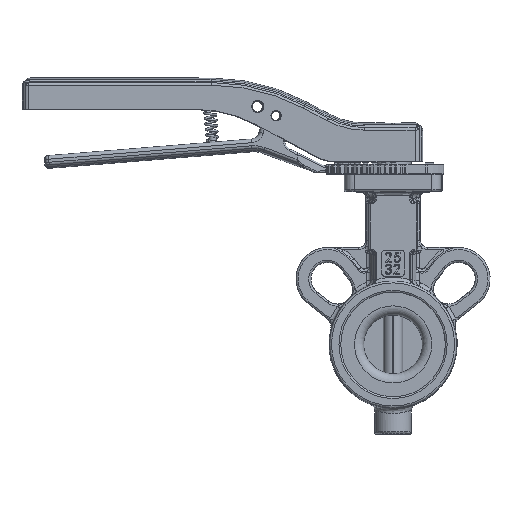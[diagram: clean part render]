
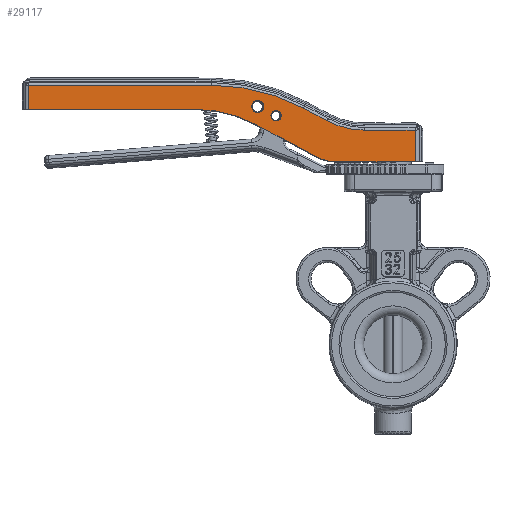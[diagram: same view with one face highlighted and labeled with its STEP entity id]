
A CAD part, top view. The second image highlights one B-rep face of the part: STEP entity #29117.
In plain terms, the highlighted planar face has unit normal (0.024, 0, 1) as drawn and (0, 0, 1) by its records, which use the part's own axes.
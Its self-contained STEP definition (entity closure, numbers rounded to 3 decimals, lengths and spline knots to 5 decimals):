
#1119=FACE_BOUND('',#4175,.T.);
#1120=FACE_BOUND('',#4176,.T.);
#1393=PLANE('',#31464);
#2337=FACE_OUTER_BOUND('',#4174,.T.);
#4174=EDGE_LOOP('',(#21689,#21690,#21691,#21692,#21693,#21694,#21695,#21696,
#21697,#21698,#21699,#21700));
#4175=EDGE_LOOP('',(#21701));
#4176=EDGE_LOOP('',(#21702));
#6951=LINE('',#60501,#8979);
#6970=LINE('',#60550,#8998);
#6974=LINE('',#60564,#9002);
#6975=LINE('',#60570,#9003);
#6976=LINE('',#60571,#9004);
#6977=LINE('',#60574,#9005);
#6978=LINE('',#60576,#9006);
#6979=LINE('',#60579,#9007);
#8979=VECTOR('',#35871,0.04377);
#8998=VECTOR('',#35908,0.09117);
#9002=VECTOR('',#35924,0.03821);
#9003=VECTOR('',#35929,0.09975);
#9004=VECTOR('',#35930,0.01317);
#9005=VECTOR('',#35933,0.01717);
#9006=VECTOR('',#35934,0.02776);
#9007=VECTOR('',#35937,0.01473);
#10744=CIRCLE('',#31462,0.07);
#10745=CIRCLE('',#31465,0.10717);
#10746=CIRCLE('',#31466,0.02);
#10747=CIRCLE('',#31467,0.04283);
#10748=CIRCLE('',#31468,0.0028);
#10749=CIRCLE('',#31469,0.0033);
#12629=VERTEX_POINT('',#60498);
#12630=VERTEX_POINT('',#60500);
#12650=VERTEX_POINT('',#60547);
#12651=VERTEX_POINT('',#60549);
#12654=VERTEX_POINT('',#60558);
#12655=VERTEX_POINT('',#60562);
#12656=VERTEX_POINT('',#60566);
#12657=VERTEX_POINT('',#60567);
#12658=VERTEX_POINT('',#60569);
#12659=VERTEX_POINT('',#60573);
#12660=VERTEX_POINT('',#60575);
#12661=VERTEX_POINT('',#60577);
#12662=VERTEX_POINT('',#60580);
#12663=VERTEX_POINT('',#60582);
#15860=EDGE_CURVE('',#12630,#12629,#6951,.T.);
#15885=EDGE_CURVE('',#12651,#12650,#6970,.T.);
#15891=EDGE_CURVE('',#12650,#12654,#10744,.T.);
#15893=EDGE_CURVE('',#12654,#12655,#6974,.T.);
#15894=EDGE_CURVE('',#12656,#12657,#10745,.F.);
#15895=EDGE_CURVE('',#12657,#12658,#6975,.F.);
#15896=EDGE_CURVE('',#12658,#12651,#6976,.F.);
#15897=EDGE_CURVE('',#12655,#12630,#10746,.F.);
#15898=EDGE_CURVE('',#12629,#12659,#6977,.F.);
#15899=EDGE_CURVE('',#12659,#12660,#6978,.F.);
#15900=EDGE_CURVE('',#12660,#12661,#10747,.T.);
#15901=EDGE_CURVE('',#12661,#12656,#6979,.F.);
#15902=EDGE_CURVE('',#12662,#12662,#10748,.T.);
#15903=EDGE_CURVE('',#12663,#12663,#10749,.T.);
#21689=ORIENTED_EDGE('',*,*,#15894,.T.);
#21690=ORIENTED_EDGE('',*,*,#15895,.T.);
#21691=ORIENTED_EDGE('',*,*,#15896,.T.);
#21692=ORIENTED_EDGE('',*,*,#15885,.T.);
#21693=ORIENTED_EDGE('',*,*,#15891,.T.);
#21694=ORIENTED_EDGE('',*,*,#15893,.T.);
#21695=ORIENTED_EDGE('',*,*,#15897,.T.);
#21696=ORIENTED_EDGE('',*,*,#15860,.T.);
#21697=ORIENTED_EDGE('',*,*,#15898,.T.);
#21698=ORIENTED_EDGE('',*,*,#15899,.T.);
#21699=ORIENTED_EDGE('',*,*,#15900,.T.);
#21700=ORIENTED_EDGE('',*,*,#15901,.T.);
#21701=ORIENTED_EDGE('',*,*,#15902,.T.);
#21702=ORIENTED_EDGE('',*,*,#15903,.T.);
#29117=ADVANCED_FACE('',(#2337,#1119,#1120),#1393,.F.);
#31462=AXIS2_PLACEMENT_3D('',#60560,#35919,#35920);
#31464=AXIS2_PLACEMENT_3D('',#60565,#35925,#35926);
#31465=AXIS2_PLACEMENT_3D('',#60568,#35927,#35928);
#31466=AXIS2_PLACEMENT_3D('',#60572,#35931,#35932);
#31467=AXIS2_PLACEMENT_3D('',#60578,#35935,#35936);
#31468=AXIS2_PLACEMENT_3D('',#60581,#35938,#35939);
#31469=AXIS2_PLACEMENT_3D('',#60583,#35940,#35941);
#35871=DIRECTION('',(1.,0.,0.));
#35908=DIRECTION('',(1.,0.,0.));
#35919=DIRECTION('center_axis',(0.,0.,-1.));
#35920=DIRECTION('ref_axis',(-1.,0.,0.));
#35924=DIRECTION('',(0.883,-0.469,0.));
#35925=DIRECTION('center_axis',(0.,0.,-1.));
#35926=DIRECTION('ref_axis',(-1.,0.,0.));
#35927=DIRECTION('center_axis',(0.,0.,-1.));
#35928=DIRECTION('ref_axis',(-1.,0.,0.));
#35929=DIRECTION('',(1.,0.,0.));
#35930=DIRECTION('',(0.,1.,0.));
#35931=DIRECTION('center_axis',(0.,0.,-1.));
#35932=DIRECTION('ref_axis',(-1.,0.,0.));
#35933=DIRECTION('',(0.,-1.,0.));
#35934=DIRECTION('',(1.,0.,0.));
#35935=DIRECTION('center_axis',(0.,0.,-1.));
#35936=DIRECTION('ref_axis',(-1.,0.,0.));
#35937=DIRECTION('',(0.883,-0.469,0.));
#35938=DIRECTION('center_axis',(0.,0.,-1.));
#35939=DIRECTION('ref_axis',(-1.,0.,0.));
#35940=DIRECTION('center_axis',(0.,0.,-1.));
#35941=DIRECTION('ref_axis',(-1.,0.,0.));
#60498=CARTESIAN_POINT('',(-0.00424,0.,0.0115));
#60500=CARTESIAN_POINT('',(-0.04801,0.,0.0115));
#60501=CARTESIAN_POINT('',(-0.04801,0.,0.0115));
#60547=CARTESIAN_POINT('',(-0.124,0.02847,0.0115));
#60549=CARTESIAN_POINT('',(-0.21517,0.02847,0.0115));
#60550=CARTESIAN_POINT('',(-0.21517,0.02847,0.0115));
#60558=CARTESIAN_POINT('',(-0.09114,0.02028,0.0115));
#60560=CARTESIAN_POINT('Origin',(-0.124,-0.04153,0.0115));
#60562=CARTESIAN_POINT('',(-0.0574,0.00234,0.0115));
#60564=CARTESIAN_POINT('',(-0.09114,0.02028,0.0115));
#60565=CARTESIAN_POINT('Origin',(-0.032,0.06,0.0115));
#60566=CARTESIAN_POINT('',(-0.06511,0.0291,0.0115));
#60567=CARTESIAN_POINT('',(-0.11542,0.04164,0.0115));
#60568=CARTESIAN_POINT('Origin',(-0.11542,-0.06553,
0.0115));
#60569=CARTESIAN_POINT('',(-0.21517,0.04164,0.0115));
#60570=CARTESIAN_POINT('',(-0.21517,0.04164,0.0115));
#60571=CARTESIAN_POINT('',(-0.21517,0.02847,0.0115));
#60572=CARTESIAN_POINT('Origin',(-0.04801,0.02,0.0115));
#60573=CARTESIAN_POINT('',(-0.00424,0.01717,0.0115));
#60574=CARTESIAN_POINT('',(-0.00424,0.01717,0.0115));
#60575=CARTESIAN_POINT('',(-0.032,0.01717,0.0115));
#60576=CARTESIAN_POINT('',(-0.032,0.01717,0.0115));
#60577=CARTESIAN_POINT('',(-0.05211,0.02218,0.0115));
#60578=CARTESIAN_POINT('Origin',(-0.032,0.06,0.0115));
#60579=CARTESIAN_POINT('',(-0.06511,0.0291,0.0115));
#60580=CARTESIAN_POINT('',(-0.0828,0.025,0.0115));
#60581=CARTESIAN_POINT('Origin',(-0.08,0.025,0.0115));
#60582=CARTESIAN_POINT('',(-0.0933,0.03,0.0115));
#60583=CARTESIAN_POINT('Origin',(-0.09,0.03,0.0115));
